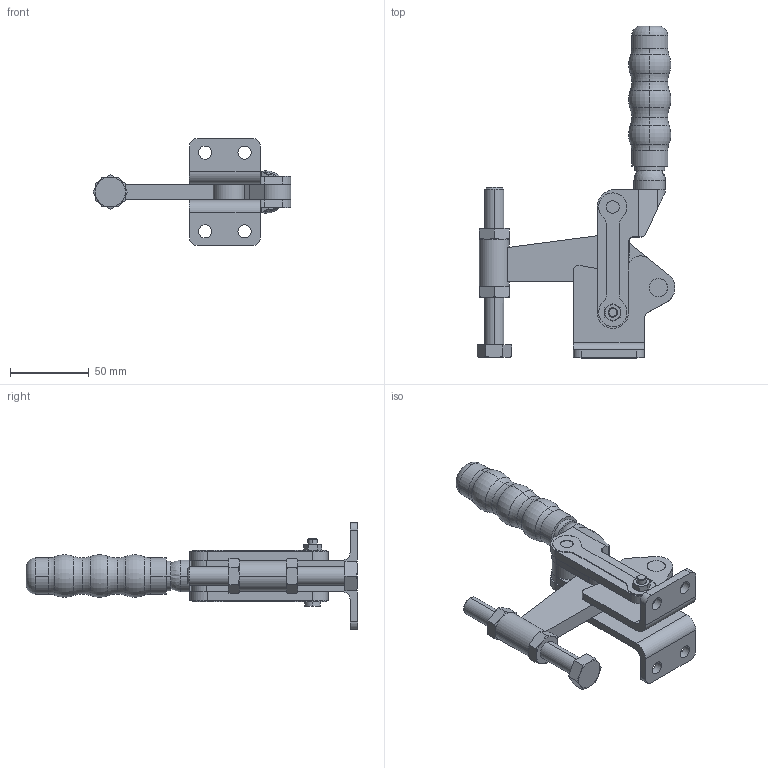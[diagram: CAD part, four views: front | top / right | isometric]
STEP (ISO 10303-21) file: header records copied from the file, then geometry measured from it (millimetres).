
FILE_DESCRIPTION( ( '' ), '1' );
FILE_NAME( '//partserver002.servicenet/client_exchange/iodir/jobs/output/wkb5782701_no3/STEP/va700_2c_2_14b.stp', '2006-11-29T10:39:32', ( '' ), ( '' ), ' ', ' ', ' ' );
FILE_SCHEMA( ( 'automotive_design' ) );
Length unit declared in the file: millimetre
Products named in the file (8): 1; 2; 3; 4; 5; 6; 7; 8
Bounding box: 125.76 x 210.8 x 68 mm (x, y, z)
Volume: 185744.8 mm3; surface area: 65778.6 mm2
Topology: 8 solids, 9 shells, 313 faces, 751 edges, 479 vertices
Faces by surface type: cylinder 125, plane 112, cone 54, torus 20, sphere 2
Entity records: 17937 total; most frequent: CARTESIAN_POINT 1715, DIRECTION 1672, STYLED_ITEM 1547, PRESENTATION_STYLE_ASSIGNMENT 1547, COLOUR_RGB 1547, ORIENTED_EDGE 1494, EDGE_CURVE 747, CURVE_STYLE 747
